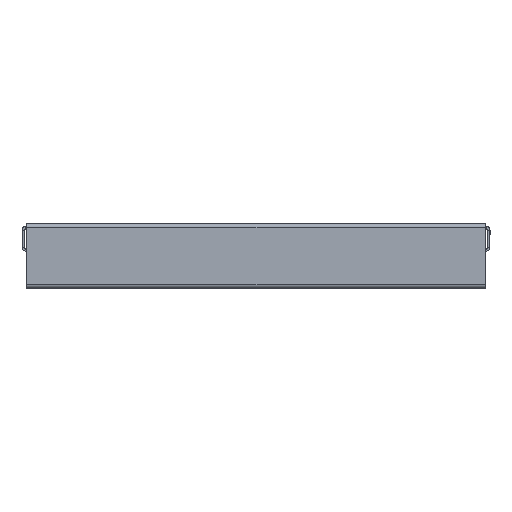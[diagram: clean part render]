
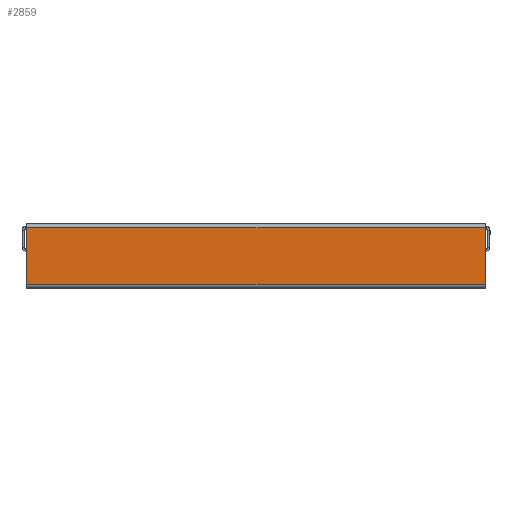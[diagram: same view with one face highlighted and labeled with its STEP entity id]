
A CAD part, left-side view. The second image highlights one B-rep face of the part: STEP entity #2859.
In plain terms, the highlighted planar face has unit normal (-1, 0, 0).
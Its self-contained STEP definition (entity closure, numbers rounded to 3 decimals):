
#14 = LINE ( 'NONE', #1343, #487 ) ;
#94 = CARTESIAN_POINT ( 'NONE',  ( -230., -186., -28. ) ) ;
#137 = PLANE ( 'NONE',  #248 ) ;
#223 = EDGE_CURVE ( 'NONE', #464, #1937, #14, .T. ) ;
#245 = VECTOR ( 'NONE', #2032, 1000. ) ;
#248 = AXIS2_PLACEMENT_3D ( 'NONE', #1535, #2450, #1734 ) ;
#277 = VERTEX_POINT ( 'NONE', #754 ) ;
#342 = VERTEX_POINT ( 'NONE', #2130 ) ;
#447 = DIRECTION ( 'NONE',  ( 0., 0., 1. ) ) ;
#464 = VERTEX_POINT ( 'NONE', #563 ) ;
#487 = VECTOR ( 'NONE', #2464, 1000. ) ;
#563 = CARTESIAN_POINT ( 'NONE',  ( -230., 186., -27. ) ) ;
#695 = ORIENTED_EDGE ( 'NONE', *, *, #2601, .T. ) ;
#754 = CARTESIAN_POINT ( 'NONE',  ( -230., -186., 19. ) ) ;
#814 = VECTOR ( 'NONE', #447, 1000. ) ;
#1055 = FACE_OUTER_BOUND ( 'NONE', #2325, .T. ) ;
#1122 = CARTESIAN_POINT ( 'NONE',  ( -230., -186., 19. ) ) ;
#1191 = CARTESIAN_POINT ( 'NONE',  ( -230., -186., -27. ) ) ;
#1205 = VECTOR ( 'NONE', #1644, 1000. ) ;
#1343 = CARTESIAN_POINT ( 'NONE',  ( -230., 186., -27. ) ) ;
#1448 = LINE ( 'NONE', #94, #1205 ) ;
#1519 = ORIENTED_EDGE ( 'NONE', *, *, #223, .T. ) ;
#1535 = CARTESIAN_POINT ( 'NONE',  ( -230., 186., -28. ) ) ;
#1604 = LINE ( 'NONE', #1122, #245 ) ;
#1617 = LINE ( 'NONE', #2481, #814 ) ;
#1622 = ORIENTED_EDGE ( 'NONE', *, *, #2647, .F. ) ;
#1644 = DIRECTION ( 'NONE',  ( 0., 0., 1. ) ) ;
#1734 = DIRECTION ( 'NONE',  ( 0., 0., -1. ) ) ;
#1937 = VERTEX_POINT ( 'NONE', #1191 ) ;
#2032 = DIRECTION ( 'NONE',  ( 0., 1., 0. ) ) ;
#2130 = CARTESIAN_POINT ( 'NONE',  ( -230., 186., 19. ) ) ;
#2325 = EDGE_LOOP ( 'NONE', ( #695, #1622, #1519, #2882 ) ) ;
#2450 = DIRECTION ( 'NONE',  ( 1., 0., 0. ) ) ;
#2464 = DIRECTION ( 'NONE',  ( 0., -1., 0. ) ) ;
#2481 = CARTESIAN_POINT ( 'NONE',  ( -230., 186., -28. ) ) ;
#2601 = EDGE_CURVE ( 'NONE', #277, #342, #1604, .T. ) ;
#2647 = EDGE_CURVE ( 'NONE', #464, #342, #1617, .T. ) ;
#2760 = EDGE_CURVE ( 'NONE', #1937, #277, #1448, .T. ) ;
#2859 = ADVANCED_FACE ( 'NONE', ( #1055 ), #137, .F. ) ;
#2882 = ORIENTED_EDGE ( 'NONE', *, *, #2760, .T. ) ;
